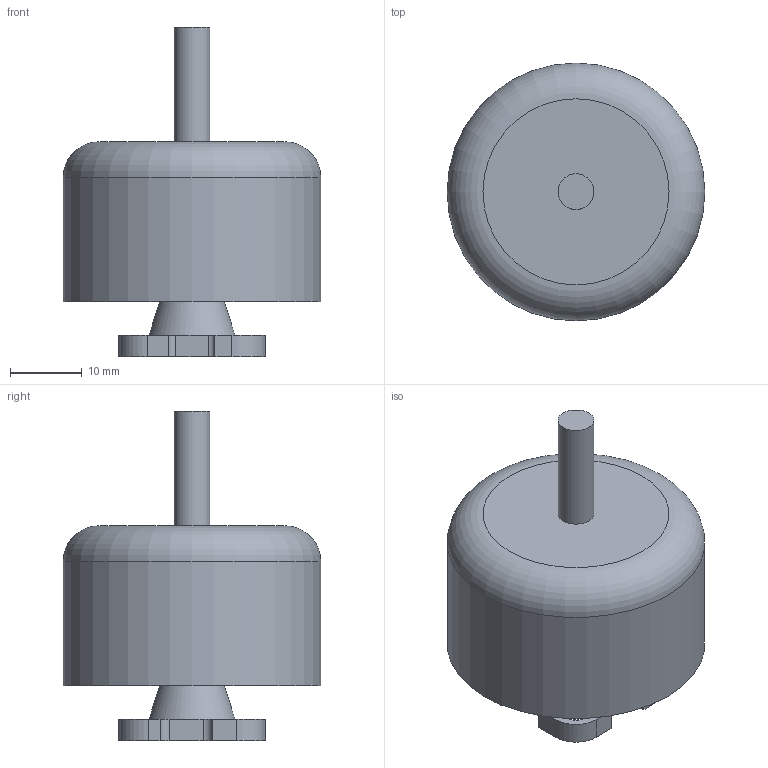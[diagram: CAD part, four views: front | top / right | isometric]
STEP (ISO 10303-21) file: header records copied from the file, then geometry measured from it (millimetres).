
FILE_DESCRIPTION(/* description */ (''),/* implementation_level */ '2;1');
FILE_NAME(/* name */ 'iFlight2814_880kVMotor.stp',/* time_stamp */ '2022-03-22T14:54:03-07:00',/* author */ (''),/* organization */ (''),/* preprocessor_version */ 'ST-DEVELOPER v14',/* originating_system */ 'SIEMENS PLM Software NX 8.0',/* authorisation */ '');
FILE_SCHEMA (('AUTOMOTIVE_DESIGN { 1 0 10303 214 3 1 1 1 }'));
Length unit declared in the file: millimetre
Products named in the file (1): iFlight2814_880kVMotor
Bounding box: 36 x 36 x 46 mm (x, y, z)
Volume: 23728.1 mm3; surface area: 5900.5 mm2
Topology: 3 solids, 3 shells, 47 faces, 120 edges, 80 vertices
Faces by surface type: plane 27, cylinder 18, bspline 1, torus 1
Full cylindrical faces by diameter (mm): 4.5 x4, 5 x1, 36 x1
Entity records: 1498 total; most frequent: CARTESIAN_POINT 311, DIRECTION 240, ORIENTED_EDGE 222, EDGE_CURVE 111, AXIS2_PLACEMENT_3D 84, VERTEX_POINT 79, LINE 72, VECTOR 72
